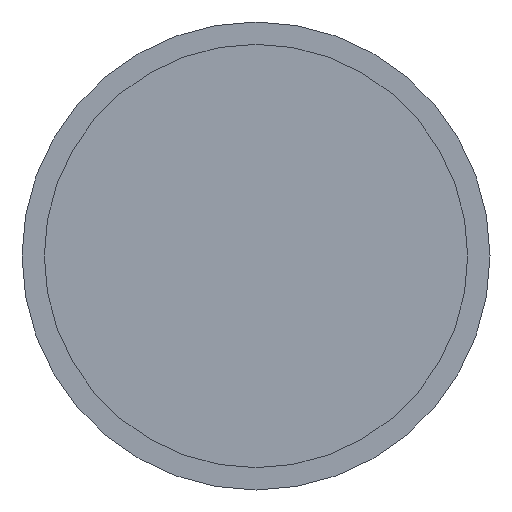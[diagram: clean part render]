
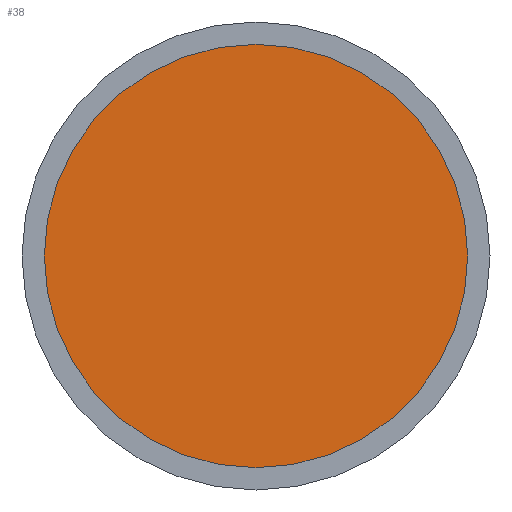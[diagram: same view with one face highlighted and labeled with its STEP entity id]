
A CAD part, front view. The second image highlights one B-rep face of the part: STEP entity #38.
In plain terms, the highlighted planar face has unit normal (0, -1, 0).
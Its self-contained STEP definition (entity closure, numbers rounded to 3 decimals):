
#38 = ADVANCED_FACE( '', ( #74 ), #75, .F. );
#74 = FACE_OUTER_BOUND( '', #103, .T. );
#75 = PLANE( '', #104 );
#103 = EDGE_LOOP( '', ( #134 ) );
#104 = AXIS2_PLACEMENT_3D( '', #135, #136, #137 );
#134 = ORIENTED_EDGE( '', *, *, #148, .F. );
#135 = CARTESIAN_POINT( '', ( 0., 0., 0. ) );
#136 = DIRECTION( '', ( 0., 1., 0. ) );
#137 = DIRECTION( '', ( 0., 0., 1. ) );
#148 = EDGE_CURVE( '', #161, #161, #162, .T. );
#161 = VERTEX_POINT( '', #177 );
#162 = CIRCLE( '', #178, 4.75 );
#177 = CARTESIAN_POINT( '', ( 0., 0., 4.75 ) );
#178 = AXIS2_PLACEMENT_3D( '', #193, #194, #195 );
#193 = CARTESIAN_POINT( '', ( 0., 0., 0. ) );
#194 = DIRECTION( '', ( 0., 1., 0. ) );
#195 = DIRECTION( '', ( 0., 0., 1. ) );
